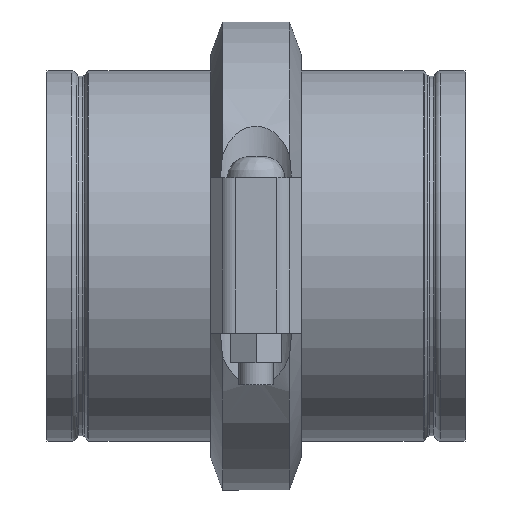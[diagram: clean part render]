
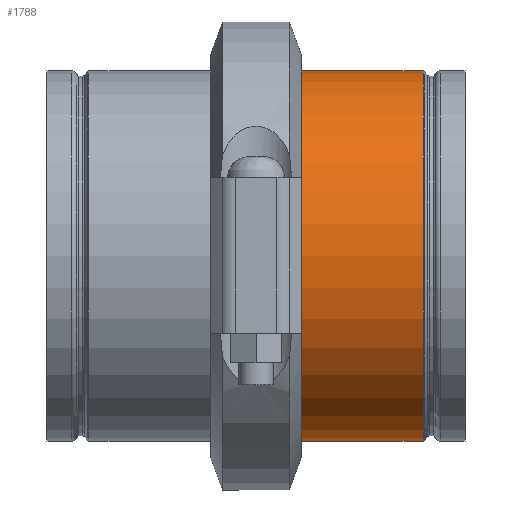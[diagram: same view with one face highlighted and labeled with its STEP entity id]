
A CAD part, top view. The second image highlights one B-rep face of the part: STEP entity #1788.
In plain terms, the highlighted cylindrical face has radius 136.525 mm (diameter 273.05 mm), a full revolution.
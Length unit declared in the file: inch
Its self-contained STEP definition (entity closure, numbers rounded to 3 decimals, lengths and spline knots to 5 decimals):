
#63=LINE('',#2910,#152);
#152=VECTOR('',#2343,5.375);
#241=CYLINDRICAL_SURFACE('',#2016,5.375);
#345=FACE_OUTER_BOUND('',#445,.T.);
#445=EDGE_LOOP('',(#1235,#1236,#1237,#1238,#1239,#1240,#1241,#1242));
#588=CIRCLE('',#2012,5.375);
#589=CIRCLE('',#2013,5.375);
#591=CIRCLE('',#2015,5.375);
#592=CIRCLE('',#2017,5.375);
#593=CIRCLE('',#2018,5.375);
#594=CIRCLE('',#2019,5.375);
#733=VERTEX_POINT('',#2897);
#734=VERTEX_POINT('',#2898);
#735=VERTEX_POINT('',#2900);
#736=VERTEX_POINT('',#2905);
#737=VERTEX_POINT('',#2906);
#738=VERTEX_POINT('',#2908);
#928=EDGE_CURVE('',#733,#734,#588,.T.);
#929=EDGE_CURVE('',#734,#735,#589,.T.);
#931=EDGE_CURVE('',#735,#733,#591,.T.);
#932=EDGE_CURVE('',#736,#737,#592,.T.);
#933=EDGE_CURVE('',#738,#736,#593,.T.);
#934=EDGE_CURVE('',#738,#734,#63,.T.);
#935=EDGE_CURVE('',#737,#738,#594,.T.);
#1235=ORIENTED_EDGE('',*,*,#932,.F.);
#1236=ORIENTED_EDGE('',*,*,#933,.F.);
#1237=ORIENTED_EDGE('',*,*,#934,.T.);
#1238=ORIENTED_EDGE('',*,*,#928,.F.);
#1239=ORIENTED_EDGE('',*,*,#931,.F.);
#1240=ORIENTED_EDGE('',*,*,#929,.F.);
#1241=ORIENTED_EDGE('',*,*,#934,.F.);
#1242=ORIENTED_EDGE('',*,*,#935,.F.);
#1788=ADVANCED_FACE('',(#345),#241,.T.);
#2012=AXIS2_PLACEMENT_3D('',#2899,#2329,#2330);
#2013=AXIS2_PLACEMENT_3D('',#2901,#2331,#2332);
#2015=AXIS2_PLACEMENT_3D('',#2903,#2335,#2336);
#2016=AXIS2_PLACEMENT_3D('',#2904,#2337,#2338);
#2017=AXIS2_PLACEMENT_3D('',#2907,#2339,#2340);
#2018=AXIS2_PLACEMENT_3D('',#2909,#2341,#2342);
#2019=AXIS2_PLACEMENT_3D('',#2911,#2344,#2345);
#2329=DIRECTION('center_axis',(-1.,0.,0.));
#2330=DIRECTION('ref_axis',(0.,-1.,0.));
#2331=DIRECTION('center_axis',(-1.,0.,0.));
#2332=DIRECTION('ref_axis',(0.,-1.,0.));
#2335=DIRECTION('center_axis',(-1.,0.,0.));
#2336=DIRECTION('ref_axis',(0.,-1.,0.));
#2337=DIRECTION('center_axis',(1.,0.,0.));
#2338=DIRECTION('ref_axis',(0.,1.,0.));
#2339=DIRECTION('center_axis',(1.,0.,0.));
#2340=DIRECTION('ref_axis',(0.,-1.,0.));
#2341=DIRECTION('center_axis',(1.,0.,0.));
#2342=DIRECTION('ref_axis',(0.,-1.,0.));
#2343=DIRECTION('',(-1.,0.,0.));
#2344=DIRECTION('center_axis',(1.,0.,0.));
#2345=DIRECTION('ref_axis',(0.,-1.,0.));
#2897=CARTESIAN_POINT('',(1.249,5.375,0.));
#2898=CARTESIAN_POINT('',(1.249,-5.375,0.));
#2899=CARTESIAN_POINT('Origin',(1.249,0.,0.));
#2900=CARTESIAN_POINT('',(1.249,0.,5.375));
#2901=CARTESIAN_POINT('Origin',(1.249,0.,0.));
#2903=CARTESIAN_POINT('Origin',(1.249,0.,0.));
#2904=CARTESIAN_POINT('Origin',(3.01773,0.,0.));
#2905=CARTESIAN_POINT('',(4.78523,5.375,0.));
#2906=CARTESIAN_POINT('',(4.78523,0.,5.375));
#2907=CARTESIAN_POINT('Origin',(4.78523,0.,0.));
#2908=CARTESIAN_POINT('',(4.78523,-5.375,0.));
#2909=CARTESIAN_POINT('Origin',(4.78523,0.,0.));
#2910=CARTESIAN_POINT('',(3.01773,-5.375,0.));
#2911=CARTESIAN_POINT('Origin',(4.78523,0.,0.));
